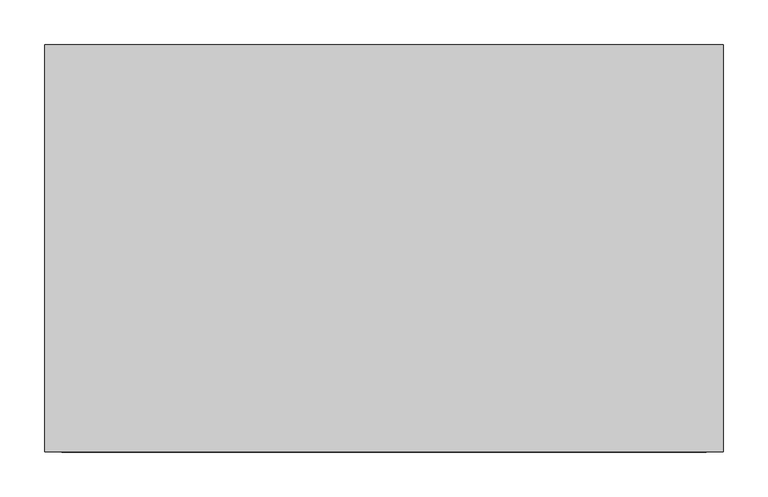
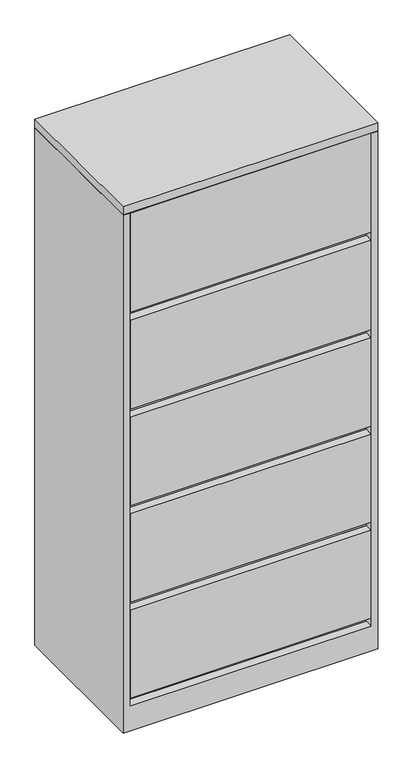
"""IFC4 building model written with IfcOpenShell, lengths in millimetres: furniture geometry, Steelcase - 900 Series - Storage - Lateral File With Roll Out Shelf - Flush Steel : 65 1/2H x 30W."""

from ifc_helpers import new_model, si_unit, frame, origin, place, context, project, spatial, polyline, outline, extrude, faceted_brep, source, transform, mapped, element, save


def furniture_71116bf3(model_context):
    return source(origin(), model_context, "Body", "SolidModel", [
        faceted_brep([(742.6960184, -25.2721219, 1636.776), (742.6960184, -457.2, 1636.776), (762.0, -457.2, 1636.776), (762.0, 0.0, 1636.776), (0.0, 0.0, 1636.776), (0.0, -457.2, 1636.776), (19.3039998, -457.2, 1636.776), (19.3039998, -25.2721219, 1636.776), (0.0, -457.2, 0.0), (0.0, 0.0, 0.0), (762.0, 0.0, 0.0), (762.0, -457.2, 0.0), (742.6960184, -25.2721219, 406.7048), (742.6960184, -431.800255, 406.7048), (742.6960184, -431.800255, 381.254), (742.6960184, -25.2721219, 381.254), (742.6960184, -25.2721219, 103.3780013), (742.6960184, -430.275847, 103.3780013), (742.6960184, -430.275847, 77.9779983), (742.6960184, -457.2, 77.9779983), (19.3039998, -457.2, 77.9779983), (19.3039998, -430.275847, 77.9779983), (19.3039998, -430.275847, 103.3780013), (19.3039998, -25.2721219, 103.3780013), (19.3039998, -25.2721219, 381.254), (19.3039998, -431.800255, 381.254), (19.3039998, -431.800255, 406.7048), (19.3039998, -25.2721219, 406.7048)], [[[0, 1, 2, 3, 4, 5, 6, 7]], [[8, 9, 10, 11]], [[1, 0, 12, 13, 14, 15, 16, 17, 18, 19]], [[2, 1, 19, 20, 6, 5, 8, 11]], [[3, 2, 11, 10]], [[4, 3, 10, 9]], [[5, 4, 9, 8]], [[7, 6, 20, 21, 22, 23, 24, 25, 26, 27]], [[0, 7, 27, 12]], [[16, 15, 24, 23]], [[18, 21, 20, 19]], [[22, 17, 16, 23]], [[21, 18, 17, 22]], [[26, 13, 12, 27]], [[13, 26, 25, 14]], [[14, 25, 24, 15]]]),
        extrude(outline(polyline([(741.1722015, -457.2), (20.8289612, -457.2), (20.8289612, -431.800255), (741.1722015, -431.800255), (741.1722015, -457.2)])), frame((0.0, 0.0, 1323.975), z_axis=(0.0, 0.0, 1.0), x_axis=(1.0, 0.0, 0.0)), (0.0, 0.0, 1.0), 312.801),
        extrude(outline(polyline([(742.6960184, -25.2721219), (742.6960184, -431.800255), (19.3039998, -431.800255), (19.3039998, -25.2721219), (742.6960184, -25.2721219)])), frame((0.0, 0.0, 686.1048), z_axis=(0.0, 0.0, 1.0), x_axis=(1.0, 0.0, 0.0)), (0.0, 0.0, 1.0), 25.4),
        extrude(outline(polyline([(741.1722015, -457.2), (20.8289612, -457.2), (20.8289612, -431.800255), (741.1722015, -431.800255), (741.1722015, -457.2)])), frame((0.0, 0.0, 1016.3048), z_axis=(0.0, 0.0, 1.0), x_axis=(1.0, 0.0, 0.0)), (0.0, 0.0, 1.0), 282.2702),
        extrude(outline(polyline([(741.1722015, -457.2), (20.8289612, -457.2), (20.8289612, -431.800255), (741.1722015, -431.800255), (741.1722015, -457.2)])), frame((0.0, 0.0, 711.5048), z_axis=(0.0, 0.0, 1.0), x_axis=(1.0, 0.0, 0.0)), (0.0, 0.0, 1.0), 279.4),
        extrude(outline(polyline([(742.6960184, -25.2721219), (742.6960184, -431.800255), (19.3039998, -431.800255), (19.3039998, -25.2721219), (742.6960184, -25.2721219)])), frame((0.0, 0.0, 1298.575), z_axis=(0.0, 0.0, 1.0), x_axis=(1.0, 0.0, 0.0)), (0.0, 0.0, 1.0), 25.4),
        extrude(outline(polyline([(742.6960184, -25.2721219), (742.6960184, -431.800255), (19.3039998, -431.800255), (19.3039998, -25.2721219), (742.6960184, -25.2721219)])), frame((0.0, 0.0, 990.9048), z_axis=(0.0, 0.0, 1.0), x_axis=(1.0, 0.0, 0.0)), (0.0, 0.0, 1.0), 25.4),
        faceted_brep([(762.0, 0.0, 1663.7), (0.0, 0.0, 1663.7), (0.0, -457.2, 1663.7), (762.0, -457.2, 1663.7), (762.0, 0.0, 1638.2999516), (762.0, -457.2, 1638.2999516), (0.0, -457.2, 1638.2999516), (0.0, 0.0, 1638.2999516), (742.6960184, -25.2721219, 1638.2999516), (20.8289612, -25.2721219, 1638.2999516), (20.8289612, -415.9241219, 1638.2999516), (742.6960184, -415.9241219, 1638.2999516), (742.6960184, -25.2721219, 1636.776), (742.6960184, -415.9241219, 1636.776), (20.8289612, -415.9241219, 1636.776), (20.8289612, -25.2721219, 1636.776)], [[[0, 1, 2, 3]], [[4, 5, 6, 7], [8, 9, 10, 11]], [[1, 0, 4, 7]], [[2, 1, 7, 6]], [[3, 2, 6, 5]], [[0, 3, 5, 4]], [[12, 13, 14, 15]], [[12, 15, 9, 8]], [[15, 14, 10, 9]], [[14, 13, 11, 10]], [[13, 12, 8, 11]]]),
        extrude(outline(polyline([(741.1722015, -457.2), (20.8289612, -457.2), (20.8289612, -431.800255), (741.1722015, -431.800255), (741.1722015, -457.2)])), frame((0.0, 0.0, 103.3780013), z_axis=(0.0, 0.0, 1.0), x_axis=(1.0, 0.0, 0.0)), (0.0, 0.0, 1.0), 277.8759987),
        extrude(outline(polyline([(741.1722015, -457.2), (20.8289612, -457.2), (20.8289612, -431.800255), (741.1722015, -431.800255), (741.1722015, -457.2)])), frame((0.0, 0.0, 406.7048), z_axis=(0.0, 0.0, 1.0), x_axis=(1.0, 0.0, 0.0)), (0.0, 0.0, 1.0), 279.4),
    ])


if __name__ == "__main__":
    model = new_model("IFC4")
    model_context = context("Model", 3, world=origin())
    ifc_project = project(units=[si_unit("LENGTHUNIT", "METRE", prefix="MILLI")], contexts=[model_context])
    site = spatial("IfcSite", under=ifc_project)
    building = spatial("IfcBuilding", under=site)
    placement = place(None, origin())
    furniture_shape = furniture_71116bf3(model_context)
    element("IfcFurniture", 1, ObjectType="Steelcase - 900 Series - Storage - Lateral File With Roll Out Shelf - Flush Steel : 65 1/2H x 30W", at=placement, inside=building, context=model_context, shape_type="MappedRepresentation", body=[
        mapped(furniture_shape, transform((0.0, 0.0, 0.0), x_axis=(1.0, 0.0, 0.0), y_axis=(0.0, 1.0, 0.0), z_axis=(0.0, 0.0, 1.0))),
    ])
    save(model, "model.ifc")
